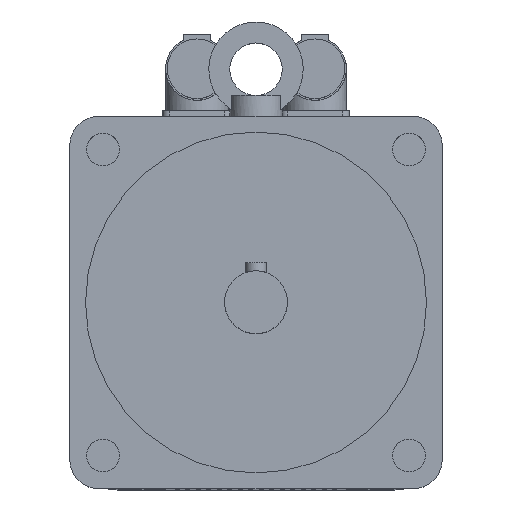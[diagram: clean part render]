
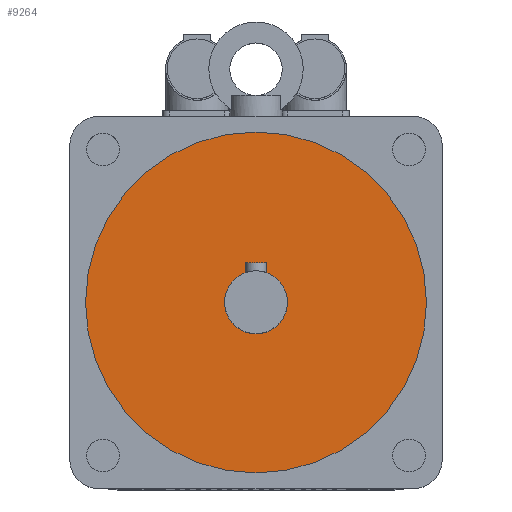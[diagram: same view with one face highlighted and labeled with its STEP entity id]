
A CAD part, top view. The second image highlights one B-rep face of the part: STEP entity #9264.
In plain terms, the highlighted planar face has unit normal (0, 0, 1).
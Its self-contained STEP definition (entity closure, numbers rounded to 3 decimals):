
#107=FACE_BOUND('',#909,.T.);
#283=FACE_OUTER_BOUND('',#908,.T.);
#908=EDGE_LOOP('',(#6623));
#909=EDGE_LOOP('',(#6624));
#1470=CIRCLE('',#9861,12.);
#1471=CIRCLE('',#9863,65.);
#4215=VERTEX_POINT('',#14403);
#4216=VERTEX_POINT('',#14406);
#5156=EDGE_CURVE('',#4215,#4215,#1470,.T.);
#5157=EDGE_CURVE('',#4216,#4216,#1471,.T.);
#6623=ORIENTED_EDGE('',*,*,#5157,.F.);
#6624=ORIENTED_EDGE('',*,*,#5156,.T.);
#8816=PLANE('',#9862);
#9264=ADVANCED_FACE('',(#283,#107),#8816,.T.);
#9861=AXIS2_PLACEMENT_3D('',#14404,#11242,#11243);
#9862=AXIS2_PLACEMENT_3D('',#14405,#11244,#11245);
#9863=AXIS2_PLACEMENT_3D('',#14407,#11246,#11247);
#11242=DIRECTION('center_axis',(0.,0.,-1.));
#11243=DIRECTION('ref_axis',(1.,0.,0.));
#11244=DIRECTION('center_axis',(0.,0.,1.));
#11245=DIRECTION('ref_axis',(1.,0.,0.));
#11246=DIRECTION('center_axis',(0.,0.,-1.));
#11247=DIRECTION('ref_axis',(1.,0.,0.));
#14403=CARTESIAN_POINT('',(0.,12.,247.));
#14404=CARTESIAN_POINT('Origin',(0.,0.,247.));
#14405=CARTESIAN_POINT('Origin',(0.,65.,247.));
#14406=CARTESIAN_POINT('',(0.,65.,247.));
#14407=CARTESIAN_POINT('Origin',(0.,0.,247.));
